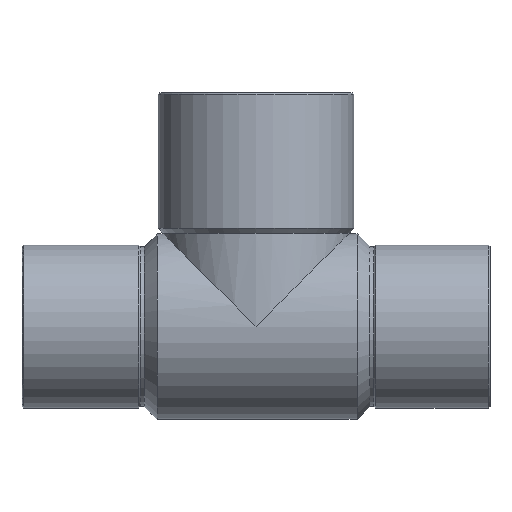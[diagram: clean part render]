
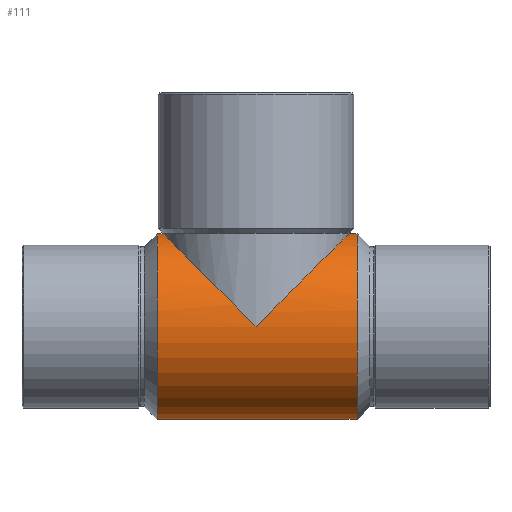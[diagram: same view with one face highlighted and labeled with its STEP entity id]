
A CAD part, top view. The second image highlights one B-rep face of the part: STEP entity #111.
In plain terms, the highlighted cylindrical face has radius 11.5 mm (diameter 23 mm), a partial arc.
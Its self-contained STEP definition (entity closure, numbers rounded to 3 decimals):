
#44=CARTESIAN_POINT('',(0.0,0.,0.0));
#45=DIRECTION('',(1.0,0.,0.0));
#46=DIRECTION('',(0.0,1.0,0.0));
#47=AXIS2_PLACEMENT_3D('',#44,#45,#46);
#48=CYLINDRICAL_SURFACE('',#47,11.5);
#49=CARTESIAN_POINT('',(-12.228,11.5,0.));
#50=VERTEX_POINT('',#49);
#51=CARTESIAN_POINT('',(-11.5,11.5,0.));
#52=VERTEX_POINT('',#51);
#53=CARTESIAN_POINT('',(-12.228,11.5,0.));
#54=DIRECTION('',(1.0,0.0,0.0));
#55=VECTOR('',#54,0.728);
#56=LINE('',#53,#55);
#57=EDGE_CURVE('',#50,#52,#56,.T.);
#58=ORIENTED_EDGE('',*,*,#57,.F.);
#59=CARTESIAN_POINT('',(-12.228,-11.5,0.));
#60=VERTEX_POINT('',#59);
#61=CARTESIAN_POINT('',(-12.228,0.,0.0));
#62=DIRECTION('',(1.0,0.0,0.0));
#63=DIRECTION('',(0.0,1.0,0.0));
#64=AXIS2_PLACEMENT_3D('',#61,#62,#63);
#65=CIRCLE('',#64,11.5);
#66=EDGE_CURVE('',#50,#60,#65,.T.);
#67=ORIENTED_EDGE('',*,*,#66,.T.);
#68=CARTESIAN_POINT('',(12.52,-11.5,0.));
#69=VERTEX_POINT('',#68);
#70=CARTESIAN_POINT('',(12.52,-11.5,0.));
#71=DIRECTION('',(-1.0,0.0,0.0));
#72=VECTOR('',#71,24.749);
#73=LINE('',#70,#72);
#74=EDGE_CURVE('',#69,#60,#73,.T.);
#75=ORIENTED_EDGE('',*,*,#74,.F.);
#76=CARTESIAN_POINT('',(12.52,11.5,0.0));
#77=VERTEX_POINT('',#76);
#78=CARTESIAN_POINT('',(12.52,0.,0.0));
#79=DIRECTION('',(-1.0,0.0,0.0));
#80=DIRECTION('',(0.0,1.0,0.0));
#81=AXIS2_PLACEMENT_3D('',#78,#79,#80);
#82=CIRCLE('',#81,11.5);
#83=EDGE_CURVE('',#69,#77,#82,.T.);
#84=ORIENTED_EDGE('',*,*,#83,.T.);
#85=CARTESIAN_POINT('',(11.5,11.5,0.));
#86=VERTEX_POINT('',#85);
#87=CARTESIAN_POINT('',(11.5,11.5,0.));
#88=DIRECTION('',(1.0,0.0,0.0));
#89=VECTOR('',#88,1.02);
#90=LINE('',#87,#89);
#91=EDGE_CURVE('',#86,#77,#90,.T.);
#92=ORIENTED_EDGE('',*,*,#91,.F.);
#93=CARTESIAN_POINT('',(0.,0.,11.5));
#94=VERTEX_POINT('',#93);
#95=CARTESIAN_POINT('',(0.,0.,0.0));
#96=DIRECTION('',(0.707,-0.707,0.0));
#97=DIRECTION('',(0.707,0.707,0.0));
#98=AXIS2_PLACEMENT_3D('',#95,#96,#97);
#99=ELLIPSE('',#98,16.263,11.5);
#100=EDGE_CURVE('',#86,#94,#99,.T.);
#101=ORIENTED_EDGE('',*,*,#100,.T.);
#102=CARTESIAN_POINT('',(0.,0.,0.0));
#103=DIRECTION('',(-0.707,-0.707,0.0));
#104=DIRECTION('',(0.707,-0.707,0.0));
#105=AXIS2_PLACEMENT_3D('',#102,#103,#104);
#106=ELLIPSE('',#105,16.263,11.5);
#107=EDGE_CURVE('',#94,#52,#106,.T.);
#108=ORIENTED_EDGE('',*,*,#107,.T.);
#109=EDGE_LOOP('',(#58,#67,#75,#84,#92,#101,#108));
#110=FACE_OUTER_BOUND('',#109,.T.);
#111=ADVANCED_FACE('',(#110),#48,.T.);
